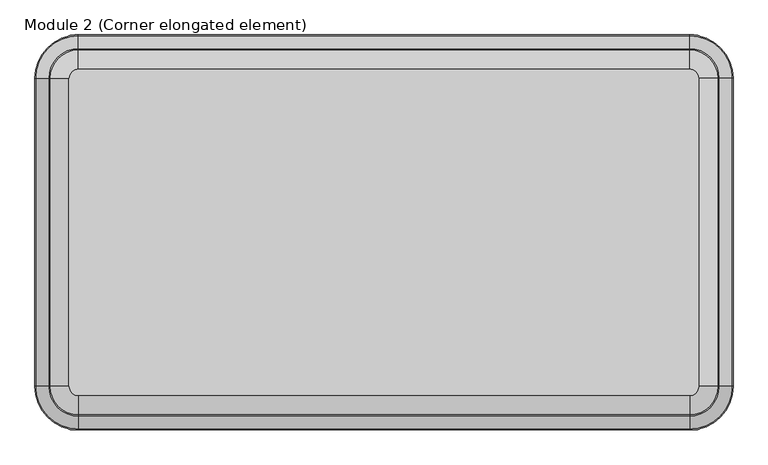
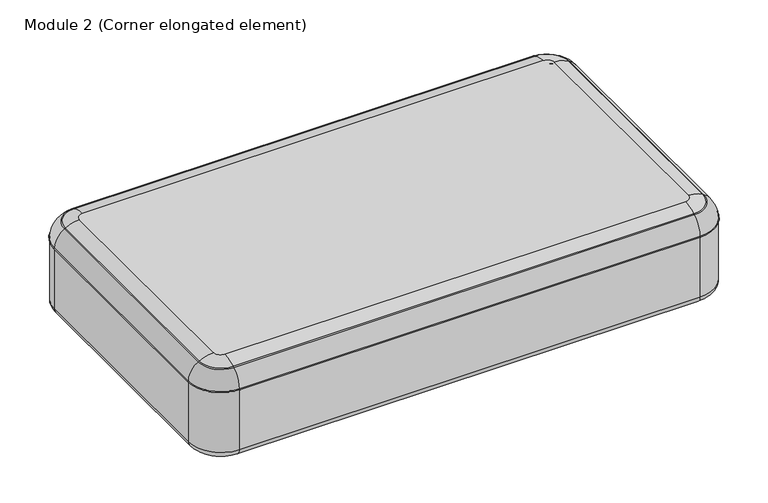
"""IFC4 building model written with IfcOpenShell, lengths in millimetres: furniture geometry, Module 2 (Corner elongated element) : 1600х930х710мм."""

from ifc_helpers import new_model, si_unit, point, frame, origin, place, context, project, spatial, polyline, circle_curve, ellipse_curve, trimmed, source, transform, mapped, element, save
from ifc_brep_helpers import plane_surface, cylinder_surface, revolved_surface, advanced_brep


def module_2_corner_elongated_element_f42900f3(model_context):
    return source(origin(), model_context, "Body", "AdvancedBrep", [
        advanced_brep(
        [(90.0, -930.0, 190.0), (0.0, -840.0, 190.0), (20.0, -840.0, 170.0), (90.0, -910.0, 170.0), (90.0, -930.0, 369.0816596), (0.0, -840.0, 369.0816596), (90.0, -903.0932178, 417.1277728), (26.9067822, -840.0, 417.1277728), (0.0043962, -840.0, 370.2686252), (90.0, -929.9956038, 370.2686252), (90.0, -900.2270188, 418.8499589), (29.7729812, -840.0, 418.8499589), (90.0, -860.0212696, 430.0), (69.9787304, -840.0, 430.0), (1380.0, -910.0, 170.0), (1380.0, -930.0, 190.0), (1380.0, -930.0, 369.0816596), (1380.0, -929.9956038, 370.2686252), (1380.0, -903.0932178, 417.1277728), (1380.0, -900.2270188, 418.8499589), (1380.0, -860.0212696, 430.0), (1450.0, -840.0, 170.0), (1470.0, -840.0, 190.0), (1470.0, -840.0, 369.0816596), (1469.9956038, -840.0, 370.2686252), (1443.0932178, -840.0, 417.1277728), (1440.2270188, -840.0, 418.8499589), (1400.0212696, -840.0, 430.0), (1450.0, -190.0, 170.0), (1470.0, -190.0, 190.0), (1470.0, -190.0, 369.0816596), (1469.9956038, -190.0, 370.2686252), (1443.0932178, -190.0, 417.1277728), (1440.2270188, -190.0, 418.8499589), (1400.0212696, -190.0, 430.0), (1380.0, -120.0, 170.0), (1380.0, -100.0, 190.0), (1380.0, -100.0, 369.0816596), (1380.0, -100.0043962, 370.2686252), (1380.0, -126.9067822, 417.1277728), (1380.0, -129.7729812, 418.8499589), (1380.0, -169.9787304, 430.0), (90.0, -120.0, 170.0), (90.0, -100.0, 190.0), (90.0, -100.0, 369.0816596), (90.0, -100.0043962, 370.2686252), (90.0, -126.9067822, 417.1277728), (90.0, -129.7729812, 418.8499589), (90.0, -169.9787304, 430.0), (20.0, -190.0, 170.0), (0.0, -190.0, 190.0), (0.0, -190.0, 369.0816596), (0.0043962, -190.0, 370.2686252), (26.9067822, -190.0, 417.1277728), (29.7729812, -190.0, 418.8499589), (69.9787304, -190.0, 430.0)],
        [
            (0, 1, circle_curve(frame((90.0, -840.0, 190.0), z_axis=(0.0, 0.0, -1.0), x_axis=(-1.0, 0.0, 0.0)), 90.0)),
            (1, 2, circle_curve(frame((20.0, -840.0, 190.0), z_axis=(0.0, -1.0, 0.0), x_axis=(1.0, 0.0, 0.0)), 20.0)),
            (2, 3, circle_curve(frame((90.0, -840.0, 170.0), z_axis=(0.0, 0.0, 1.0), x_axis=(-1.0, 0.0, 0.0)), 70.0)),
            (3, 0, circle_curve(frame((90.0, -910.0, 190.0), z_axis=(-1.0, 0.0, 0.0), x_axis=(0.0, 1.0, 0.0)), 20.0)),
            (0, 4),
            (4, 5, circle_curve(frame((90.0, -840.0, 369.0816596), z_axis=(0.0, 0.0, -1.0), x_axis=(-1.0, 0.0, 0.0)), 90.0)),
            (5, 1),
            (6, 7, circle_curve(frame((90.0, -840.0, 417.1277728), z_axis=(0.0, 0.0, -1.0), x_axis=(-1.0, 0.0, 0.0)), 63.0932178)),
            (7, 8, circle_curve(frame((55.482257, -840.0, 369.5701963), z_axis=(0.0, -1.0, 0.0), x_axis=(1.0, 0.0, 0.0)), 55.482257)),
            (8, 9, circle_curve(frame((90.0, -840.0, 370.2686252), z_axis=(0.0, 0.0, 1.0), x_axis=(-1.0, 0.0, 0.0)), 89.9956038)),
            (9, 6, circle_curve(frame((90.0, -874.517743, 369.5701963), z_axis=(-1.0, 0.0, 0.0), x_axis=(0.0, 1.0, 0.0)), 55.482257)),
            (6, 10),
            (10, 11, circle_curve(frame((90.0, -840.0, 418.8499589), z_axis=(0.0, 0.0, -1.0), x_axis=(-1.0, 0.0, 0.0)), 60.2270188)),
            (11, 7),
            (10, 12, circle_curve(frame((90.0, -860.0212696, 351.9363554), z_axis=(-1.0, 0.0, 0.0), x_axis=(0.0, 1.0, 0.0)), 78.0636446)),
            (12, 13, circle_curve(frame((90.0, -840.0, 430.0), z_axis=(0.0, 0.0, -1.0), x_axis=(-1.0, 0.0, 0.0)), 20.0212696)),
            (13, 11, circle_curve(frame((69.9787304, -840.0, 351.9363554), z_axis=(0.0, -1.0, 0.0), x_axis=(1.0, 0.0, 0.0)), 78.0636446)),
            (3, 14),
            (14, 15, circle_curve(frame((1380.0, -910.0, 190.0), z_axis=(-1.0, 0.0, 0.0), x_axis=(0.0, 1.0, 0.0)), 20.0)),
            (15, 0),
            (15, 16),
            (16, 4),
            (9, 17),
            (17, 18, circle_curve(frame((1380.0, -874.517743, 369.5701963), z_axis=(-1.0, 0.0, 0.0), x_axis=(0.0, 1.0, 0.0)), 55.482257)),
            (18, 6),
            (18, 19),
            (19, 10),
            (19, 20, circle_curve(frame((1380.0, -860.0212696, 351.9363554), z_axis=(-1.0, 0.0, 0.0), x_axis=(0.0, 1.0, 0.0)), 78.0636446)),
            (20, 12),
            (14, 21, circle_curve(frame((1380.0, -840.0, 170.0), z_axis=(0.0, 0.0, 1.0), x_axis=(0.0, -1.0, 0.0)), 70.0)),
            (21, 22, circle_curve(frame((1450.0, -840.0, 190.0), z_axis=(0.0, -1.0, 0.0), x_axis=(-1.0, 0.0, 0.0)), 20.0)),
            (22, 15, circle_curve(frame((1380.0, -840.0, 190.0), z_axis=(0.0, 0.0, -1.0), x_axis=(0.0, -1.0, 0.0)), 90.0)),
            (22, 23),
            (23, 16, circle_curve(frame((1380.0, -840.0, 369.0816596), z_axis=(0.0, 0.0, -1.0), x_axis=(0.0, -1.0, 0.0)), 90.0)),
            (17, 24, circle_curve(frame((1380.0, -840.0, 370.2686252), z_axis=(0.0, 0.0, 1.0), x_axis=(0.0, -1.0, 0.0)), 89.9956038)),
            (24, 25, circle_curve(frame((1414.517743, -840.0, 369.5701963), z_axis=(0.0, -1.0, 0.0), x_axis=(-1.0, 0.0, 0.0)), 55.482257)),
            (25, 18, circle_curve(frame((1380.0, -840.0, 417.1277728), z_axis=(0.0, 0.0, -1.0), x_axis=(0.0, -1.0, 0.0)), 63.0932178)),
            (25, 26),
            (26, 19, circle_curve(frame((1380.0, -840.0, 418.8499589), z_axis=(0.0, 0.0, -1.0), x_axis=(0.0, -1.0, 0.0)), 60.2270188)),
            (26, 27, circle_curve(frame((1400.0212696, -840.0, 351.9363554), z_axis=(0.0, -1.0, 0.0), x_axis=(-1.0, 0.0, 0.0)), 78.0636446)),
            (27, 20, circle_curve(frame((1380.0, -840.0, 430.0), z_axis=(0.0, 0.0, -1.0), x_axis=(0.0, -1.0, 0.0)), 20.0212696)),
            (21, 28),
            (28, 29, circle_curve(frame((1450.0, -190.0, 190.0), z_axis=(0.0, -1.0, 0.0), x_axis=(-1.0, 0.0, 0.0)), 20.0)),
            (29, 22),
            (29, 30),
            (30, 23),
            (24, 31),
            (31, 32, circle_curve(frame((1414.517743, -190.0, 369.5701963), z_axis=(0.0, -1.0, 0.0), x_axis=(-1.0, 0.0, 0.0)), 55.482257)),
            (32, 25),
            (32, 33),
            (33, 26),
            (33, 34, circle_curve(frame((1400.0212696, -190.0, 351.9363554), z_axis=(0.0, -1.0, 0.0), x_axis=(-1.0, 0.0, 0.0)), 78.0636446)),
            (34, 27),
            (28, 35, circle_curve(frame((1380.0, -190.0, 170.0), z_axis=(0.0, 0.0, 1.0), x_axis=(1.0, 0.0, 0.0)), 70.0)),
            (35, 36, circle_curve(frame((1380.0, -120.0, 190.0), z_axis=(1.0, 0.0, 0.0), x_axis=(0.0, -1.0, 0.0)), 20.0)),
            (36, 29, circle_curve(frame((1380.0, -190.0, 190.0), z_axis=(0.0, 0.0, -1.0), x_axis=(1.0, 0.0, 0.0)), 90.0)),
            (36, 37),
            (37, 30, circle_curve(frame((1380.0, -190.0, 369.0816596), z_axis=(0.0, 0.0, -1.0), x_axis=(1.0, 0.0, 0.0)), 90.0)),
            (31, 38, circle_curve(frame((1380.0, -190.0, 370.2686252), z_axis=(0.0, 0.0, 1.0), x_axis=(1.0, 0.0, 0.0)), 89.9956038)),
            (38, 39, circle_curve(frame((1380.0, -155.482257, 369.5701963), z_axis=(1.0, 0.0, 0.0), x_axis=(0.0, -1.0, 0.0)), 55.482257)),
            (39, 32, circle_curve(frame((1380.0, -190.0, 417.1277728), z_axis=(0.0, 0.0, -1.0), x_axis=(1.0, 0.0, 0.0)), 63.0932178)),
            (39, 40),
            (40, 33, circle_curve(frame((1380.0, -190.0, 418.8499589), z_axis=(0.0, 0.0, -1.0), x_axis=(1.0, 0.0, 0.0)), 60.2270188)),
            (40, 41, circle_curve(frame((1380.0, -169.9787304, 351.9363554), z_axis=(1.0, 0.0, 0.0), x_axis=(0.0, -1.0, 0.0)), 78.0636446)),
            (41, 34, circle_curve(frame((1380.0, -190.0, 430.0), z_axis=(0.0, 0.0, -1.0), x_axis=(1.0, 0.0, 0.0)), 20.0212696)),
            (35, 42),
            (42, 43, circle_curve(frame((90.0, -120.0, 190.0), z_axis=(1.0, 0.0, 0.0), x_axis=(0.0, -1.0, 0.0)), 20.0)),
            (43, 36),
            (43, 44),
            (44, 37),
            (38, 45),
            (45, 46, circle_curve(frame((90.0, -155.482257, 369.5701963), z_axis=(1.0, 0.0, 0.0), x_axis=(0.0, -1.0, 0.0)), 55.482257)),
            (46, 39),
            (46, 47),
            (47, 40),
            (47, 48, circle_curve(frame((90.0, -169.9787304, 351.9363554), z_axis=(1.0, 0.0, 0.0), x_axis=(0.0, -1.0, 0.0)), 78.0636446)),
            (48, 41),
            (42, 49, circle_curve(frame((90.0, -190.0, 170.0), z_axis=(0.0, 0.0, 1.0), x_axis=(0.0, 1.0, 0.0)), 70.0)),
            (49, 50, circle_curve(frame((20.0, -190.0, 190.0), z_axis=(0.0, 1.0, 0.0), x_axis=(1.0, 0.0, 0.0)), 20.0)),
            (50, 43, circle_curve(frame((90.0, -190.0, 190.0), z_axis=(0.0, 0.0, -1.0), x_axis=(0.0, 1.0, 0.0)), 90.0)),
            (50, 51),
            (51, 44, circle_curve(frame((90.0, -190.0, 369.0816596), z_axis=(0.0, 0.0, -1.0), x_axis=(0.0, 1.0, 0.0)), 90.0)),
            (45, 52, circle_curve(frame((90.0, -190.0, 370.2686252), z_axis=(0.0, 0.0, 1.0), x_axis=(0.0, 1.0, 0.0)), 89.9956038)),
            (52, 53, circle_curve(frame((55.482257, -190.0, 369.5701963), z_axis=(0.0, 1.0, 0.0), x_axis=(1.0, 0.0, 0.0)), 55.482257)),
            (53, 46, circle_curve(frame((90.0, -190.0, 417.1277728), z_axis=(0.0, 0.0, -1.0), x_axis=(0.0, 1.0, 0.0)), 63.0932178)),
            (53, 54),
            (54, 47, circle_curve(frame((90.0, -190.0, 418.8499589), z_axis=(0.0, 0.0, -1.0), x_axis=(0.0, 1.0, 0.0)), 60.2270188)),
            (54, 55, circle_curve(frame((69.9787304, -190.0, 351.9363554), z_axis=(0.0, 1.0, 0.0), x_axis=(1.0, 0.0, 0.0)), 78.0636446)),
            (55, 48, circle_curve(frame((90.0, -190.0, 430.0), z_axis=(0.0, 0.0, -1.0), x_axis=(0.0, 1.0, 0.0)), 20.0212696)),
            (55, 13),
            (2, 49),
            (1, 50),
            (5, 51),
            (7, 53),
            (52, 8),
            (11, 54),
            (4, 9, circle_curve(frame((90.0, -930.8026401, 369.6781233), z_axis=(-1.0, 0.0, 0.0), x_axis=(0.0, 1.0, 0.0)), 1.0)),
            (8, 5, circle_curve(frame((-0.8026401, -840.0, 369.6781233), z_axis=(0.0, -1.0, 0.0), x_axis=(1.0, 0.0, 0.0)), 1.0)),
            (16, 17, circle_curve(frame((1380.0, -930.8026401, 369.6781233), z_axis=(-1.0, 0.0, 0.0), x_axis=(0.0, 1.0, 0.0)), 1.0)),
            (23, 24, circle_curve(frame((1470.8026401, -840.0, 369.6781233), z_axis=(0.0, -1.0, 0.0), x_axis=(-1.0, 0.0, 0.0)), 1.0)),
            (30, 31, circle_curve(frame((1470.8026401, -190.0, 369.6781233), z_axis=(0.0, -1.0, 0.0), x_axis=(-1.0, 0.0, 0.0)), 1.0)),
            (37, 38, circle_curve(frame((1380.0, -99.1973599, 369.6781233), z_axis=(1.0, 0.0, 0.0), x_axis=(0.0, -1.0, 0.0)), 1.0)),
            (44, 45, circle_curve(frame((90.0, -99.1973599, 369.6781233), z_axis=(1.0, 0.0, 0.0), x_axis=(0.0, -1.0, 0.0)), 1.0)),
            (51, 52, circle_curve(frame((-0.8026401, -190.0, 369.6781233), z_axis=(0.0, 1.0, 0.0), x_axis=(1.0, 0.0, 0.0)), 1.0)),
        ],
        [
            revolved_surface(trimmed(ellipse_curve(frame((20.0, -840.0, 190.0), z_axis=(0.0, 1.0, 0.0), x_axis=(1.0, 0.0, 0.0)), 20.0, 20.0), [point((20.0, -840.0, 170.0))], [point((0.0, -840.0, 190.0))], True, "CARTESIAN"), (90.0, -840.0, 430.0), (0.0, 0.0, 1.0)),
            cylinder_surface(frame((90.0, -840.0, 430.0), z_axis=(0.0, 0.0, 1.0), x_axis=(-1.0, 0.0, 0.0)), 90.0),
            revolved_surface(trimmed(ellipse_curve(frame((55.482257, -840.0, 369.5701963), z_axis=(0.0, 1.0, 0.0), x_axis=(1.0, 0.0, 0.0)), 55.482257, 55.482257), [point((0.0043962, -840.0, 370.2686252))], [point((26.9067822, -840.0, 417.1277728))], True, "CARTESIAN"), (90.0, -840.0, 430.0), (0.0, 0.0, 1.0)),
            revolved_surface(polyline([(26.9067822, -840.0, 417.1277728), (29.7729812, -840.0, 418.8499589)]), (90.0, -840.0, 430.0), (0.0, 0.0, 1.0)),
            revolved_surface(trimmed(ellipse_curve(frame((69.9787304, -840.0, 351.9363554), z_axis=(0.0, 1.0, 0.0), x_axis=(1.0, 0.0, 0.0)), 78.0636446, 78.0636446), [point((29.7729812, -840.0, 418.8499589))], [point((69.9787304, -840.0, 430.0))], True, "CARTESIAN"), (90.0, -840.0, 430.0), (0.0, 0.0, 1.0)),
            cylinder_surface(frame((90.0, -910.0, 190.0), z_axis=(-1.0, 0.0, 0.0), x_axis=(0.0, 1.0, 0.0)), 20.0),
            plane_surface(frame((90.0, -930.0, 190.0), z_axis=(0.0, -1.0, 0.0), x_axis=(1.0, 0.0, 0.0))),
            cylinder_surface(frame((90.0, -874.517743, 369.5701963), z_axis=(-1.0, 0.0, 0.0), x_axis=(0.0, 1.0, 0.0)), 55.482257),
            plane_surface(frame((90.0, -903.0932178, 417.1277728), z_axis=(0.0, -0.5150380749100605, 0.8571673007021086), x_axis=(1.0, 0.0, 0.0))),
            cylinder_surface(frame((90.0, -860.0212696, 351.9363554), z_axis=(-1.0, 0.0, 0.0), x_axis=(0.0, 1.0, 0.0)), 78.0636446),
            revolved_surface(trimmed(ellipse_curve(frame((1380.0, -910.0, 190.0), z_axis=(-1.0, 0.0, 0.0), x_axis=(0.0, 1.0, 0.0)), 20.0, 20.0), [point((1380.0, -910.0, 170.0))], [point((1380.0, -930.0, 190.0))], True, "CARTESIAN"), (1380.0, -840.0, 430.0), (0.0, 0.0, 1.0)),
            cylinder_surface(frame((1380.0, -840.0, 430.0), z_axis=(0.0, 0.0, 1.0), x_axis=(0.0, -1.0, 0.0)), 90.0),
            revolved_surface(trimmed(ellipse_curve(frame((1380.0, -874.517743, 369.5701963), z_axis=(-1.0, 0.0, 0.0), x_axis=(0.0, 1.0, 0.0)), 55.482257, 55.482257), [point((1380.0, -929.9956038, 370.2686252))], [point((1380.0, -903.0932178, 417.1277728))], True, "CARTESIAN"), (1380.0, -840.0, 430.0), (0.0, 0.0, 1.0)),
            revolved_surface(polyline([(1380.0, -903.0932178, 417.1277728), (1380.0, -900.2270188, 418.8499589)]), (1380.0, -840.0, 430.0), (0.0, 0.0, 1.0)),
            revolved_surface(trimmed(ellipse_curve(frame((1380.0, -860.0212696, 351.9363554), z_axis=(-1.0, 0.0, 0.0), x_axis=(0.0, 1.0, 0.0)), 78.0636446, 78.0636446), [point((1380.0, -900.2270188, 418.8499589))], [point((1380.0, -860.0212696, 430.0))], True, "CARTESIAN"), (1380.0, -840.0, 430.0), (0.0, 0.0, 1.0)),
            cylinder_surface(frame((1450.0, -840.0, 190.0), z_axis=(0.0, -1.0, 0.0), x_axis=(-1.0, 0.0, 0.0)), 20.0),
            plane_surface(frame((1470.0, -840.0, 190.0), z_axis=(1.0, 0.0, 0.0), x_axis=(0.0, 1.0, 0.0))),
            cylinder_surface(frame((1414.517743, -840.0, 369.5701963), z_axis=(0.0, -1.0, 0.0), x_axis=(-1.0, 0.0, 0.0)), 55.482257),
            plane_surface(frame((1443.0932178, -840.0, 417.1277728), z_axis=(0.5150380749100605, 0.0, 0.8571673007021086), x_axis=(0.0, 1.0, 0.0))),
            cylinder_surface(frame((1400.0212696, -840.0, 351.9363554), z_axis=(0.0, -1.0, 0.0), x_axis=(-1.0, 0.0, 0.0)), 78.0636446),
            revolved_surface(trimmed(ellipse_curve(frame((1450.0, -190.0, 190.0), z_axis=(0.0, -1.0, 0.0), x_axis=(-1.0, 0.0, 0.0)), 20.0, 20.0), [point((1450.0, -190.0, 170.0))], [point((1470.0, -190.0, 190.0))], True, "CARTESIAN"), (1380.0, -190.0, 430.0), (0.0, 0.0, 1.0)),
            cylinder_surface(frame((1380.0, -190.0, 430.0), z_axis=(0.0, 0.0, 1.0), x_axis=(1.0, 0.0, 0.0)), 90.0),
            revolved_surface(trimmed(ellipse_curve(frame((1414.517743, -190.0, 369.5701963), z_axis=(0.0, -1.0, 0.0), x_axis=(-1.0, 0.0, 0.0)), 55.482257, 55.482257), [point((1469.9956038, -190.0, 370.2686252))], [point((1443.0932178, -190.0, 417.1277728))], True, "CARTESIAN"), (1380.0, -190.0, 430.0), (0.0, 0.0, 1.0)),
            revolved_surface(polyline([(1443.0932178, -190.0, 417.1277728), (1440.2270188, -190.0, 418.8499589)]), (1380.0, -190.0, 430.0), (0.0, 0.0, 1.0)),
            revolved_surface(trimmed(ellipse_curve(frame((1400.0212696, -190.0, 351.9363554), z_axis=(0.0, -1.0, 0.0), x_axis=(-1.0, 0.0, 0.0)), 78.0636446, 78.0636446), [point((1440.2270188, -190.0, 418.8499589))], [point((1400.0212696, -190.0, 430.0))], True, "CARTESIAN"), (1380.0, -190.0, 430.0), (0.0, 0.0, 1.0)),
            cylinder_surface(frame((1380.0, -120.0, 190.0), z_axis=(1.0, 0.0, 0.0), x_axis=(0.0, -1.0, 0.0)), 20.0),
            plane_surface(frame((1380.0, -100.0, 190.0), z_axis=(0.0, 1.0, 0.0), x_axis=(-1.0, 0.0, 0.0))),
            cylinder_surface(frame((1380.0, -155.482257, 369.5701963), z_axis=(1.0, 0.0, 0.0), x_axis=(0.0, -1.0, 0.0)), 55.482257),
            plane_surface(frame((1380.0, -126.9067822, 417.1277728), z_axis=(0.0, 0.5150380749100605, 0.8571673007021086), x_axis=(-1.0, 0.0, 0.0))),
            cylinder_surface(frame((1380.0, -169.9787304, 351.9363554), z_axis=(1.0, 0.0, 0.0), x_axis=(0.0, -1.0, 0.0)), 78.0636446),
            revolved_surface(trimmed(ellipse_curve(frame((90.0, -120.0, 190.0), z_axis=(1.0, 0.0, 0.0), x_axis=(0.0, -1.0, 0.0)), 20.0, 20.0), [point((90.0, -120.0, 170.0))], [point((90.0, -100.0, 190.0))], True, "CARTESIAN"), (90.0, -190.0, 430.0), (0.0, 0.0, 1.0)),
            cylinder_surface(frame((90.0, -190.0, 430.0), z_axis=(0.0, 0.0, 1.0), x_axis=(0.0, 1.0, 0.0)), 90.0),
            revolved_surface(trimmed(ellipse_curve(frame((90.0, -155.482257, 369.5701963), z_axis=(1.0, 0.0, 0.0), x_axis=(0.0, -1.0, 0.0)), 55.482257, 55.482257), [point((90.0, -100.0043962, 370.2686252))], [point((90.0, -126.9067822, 417.1277728))], True, "CARTESIAN"), (90.0, -190.0, 430.0), (0.0, 0.0, 1.0)),
            revolved_surface(polyline([(90.0, -126.9067822, 417.1277728), (90.0, -129.7729812, 418.8499589)]), (90.0, -190.0, 430.0), (0.0, 0.0, 1.0)),
            revolved_surface(trimmed(ellipse_curve(frame((90.0, -169.9787304, 351.9363554), z_axis=(1.0, 0.0, 0.0), x_axis=(0.0, -1.0, 0.0)), 78.0636446, 78.0636446), [point((90.0, -129.7729812, 418.8499589))], [point((90.0, -169.9787304, 430.0))], True, "CARTESIAN"), (90.0, -190.0, 430.0), (0.0, 0.0, 1.0)),
            plane_surface(frame((69.9787304, -190.0, 430.0), z_axis=(0.0, 0.0, 1.0), x_axis=(0.0, -1.0, 0.0))),
            plane_surface(frame((80.0, -190.0, 170.0), z_axis=(0.0, 0.0, -1.0), x_axis=(0.0, -1.0, 0.0))),
            cylinder_surface(frame((20.0, -190.0, 190.0), z_axis=(0.0, 1.0, 0.0), x_axis=(1.0, 0.0, 0.0)), 20.0),
            plane_surface(frame((0.0, -190.0, 190.0), z_axis=(-1.0, 0.0, 0.0), x_axis=(0.0, -1.0, 0.0))),
            cylinder_surface(frame((55.482257, -190.0, 369.5701963), z_axis=(0.0, 1.0, 0.0), x_axis=(1.0, 0.0, 0.0)), 55.482257),
            plane_surface(frame((26.9067822, -190.0, 417.1277728), z_axis=(-0.5150380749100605, 0.0, 0.8571673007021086), x_axis=(0.0, -1.0, 0.0))),
            cylinder_surface(frame((69.9787304, -190.0, 351.9363554), z_axis=(0.0, 1.0, 0.0), x_axis=(1.0, 0.0, 0.0)), 78.0636446),
            revolved_surface(trimmed(ellipse_curve(frame((-0.8026401, -840.0, 369.6781233), z_axis=(0.0, 1.0, 0.0), x_axis=(1.0, 0.0, 0.0)), 1.0, 1.0), [point((0.0, -840.0, 369.0816596))], [point((0.0043962, -840.0, 370.2686252))], True, "CARTESIAN"), (90.0, -840.0, 430.0), (0.0, 0.0, 1.0)),
            cylinder_surface(frame((90.0, -930.8026401, 369.6781233), z_axis=(-1.0, 0.0, 0.0), x_axis=(0.0, 1.0, 0.0)), 1.0),
            revolved_surface(trimmed(ellipse_curve(frame((1380.0, -930.8026401, 369.6781233), z_axis=(-1.0, 0.0, 0.0), x_axis=(0.0, 1.0, 0.0)), 1.0, 1.0), [point((1380.0, -930.0, 369.0816596))], [point((1380.0, -929.9956038, 370.2686252))], True, "CARTESIAN"), (1380.0, -840.0, 430.0), (0.0, 0.0, 1.0)),
            cylinder_surface(frame((1470.8026401, -840.0, 369.6781233), z_axis=(0.0, -1.0, 0.0), x_axis=(-1.0, 0.0, 0.0)), 1.0),
            revolved_surface(trimmed(ellipse_curve(frame((1470.8026401, -190.0, 369.6781233), z_axis=(0.0, -1.0, 0.0), x_axis=(-1.0, 0.0, 0.0)), 1.0, 1.0), [point((1470.0, -190.0, 369.0816596))], [point((1469.9956038, -190.0, 370.2686252))], True, "CARTESIAN"), (1380.0, -190.0, 430.0), (0.0, 0.0, 1.0)),
            cylinder_surface(frame((1380.0, -99.1973599, 369.6781233), z_axis=(1.0, 0.0, 0.0), x_axis=(0.0, -1.0, 0.0)), 1.0),
            revolved_surface(trimmed(ellipse_curve(frame((90.0, -99.1973599, 369.6781233), z_axis=(1.0, 0.0, 0.0), x_axis=(0.0, -1.0, 0.0)), 1.0, 1.0), [point((90.0, -100.0, 369.0816596))], [point((90.0, -100.0043962, 370.2686252))], True, "CARTESIAN"), (90.0, -190.0, 430.0), (0.0, 0.0, 1.0)),
            cylinder_surface(frame((-0.8026401, -190.0, 369.6781233), z_axis=(0.0, 1.0, 0.0), x_axis=(1.0, 0.0, 0.0)), 1.0),
        ],
        [
            (0, [[1, 2, 3, 4]]),
            (1, [[-1, 5, 6, 7]]),
            (2, [[8, 9, 10, 11]]),
            (3, [[-8, 12, 13, 14]]),
            (4, [[-13, 15, 16, 17]]),
            (5, [[-4, 18, 19, 20]]),
            (6, [[-5, -20, 21, 22]]),
            (7, [[-11, 23, 24, 25]]),
            (8, [[-12, -25, 26, 27]]),
            (9, [[-15, -27, 28, 29]]),
            (10, [[-19, 30, 31, 32]]),
            (11, [[-21, -32, 33, 34]]),
            (12, [[-24, 35, 36, 37]]),
            (13, [[-26, -37, 38, 39]]),
            (14, [[-28, -39, 40, 41]]),
            (15, [[-31, 42, 43, 44]]),
            (16, [[-33, -44, 45, 46]]),
            (17, [[-36, 47, 48, 49]]),
            (18, [[-38, -49, 50, 51]]),
            (19, [[-40, -51, 52, 53]]),
            (20, [[-43, 54, 55, 56]]),
            (21, [[-45, -56, 57, 58]]),
            (22, [[-48, 59, 60, 61]]),
            (23, [[-50, -61, 62, 63]]),
            (24, [[-52, -63, 64, 65]]),
            (25, [[-55, 66, 67, 68]]),
            (26, [[-57, -68, 69, 70]]),
            (27, [[-60, 71, 72, 73]]),
            (28, [[-62, -73, 74, 75]]),
            (29, [[-64, -75, 76, 77]]),
            (30, [[-67, 78, 79, 80]]),
            (31, [[-69, -80, 81, 82]]),
            (32, [[-72, 83, 84, 85]]),
            (33, [[-74, -85, 86, 87]]),
            (34, [[-76, -87, 88, 89]]),
            (35, [[-16, -29, -41, -53, -65, -77, -89, 90]]),
            (36, [[-3, 91, -78, -66, -54, -42, -30, -18]]),
            (37, [[-2, 92, -79, -91]]),
            (38, [[-7, 93, -81, -92]]),
            (39, [[-9, 94, -84, 95]]),
            (40, [[-14, 96, -86, -94]]),
            (41, [[-17, -90, -88, -96]]),
            (42, [[-6, 97, -10, 98]]),
            (43, [[-22, 99, -23, -97]]),
            (44, [[-34, 100, -35, -99]]),
            (45, [[-46, 101, -47, -100]]),
            (46, [[-58, 102, -59, -101]]),
            (47, [[-70, 103, -71, -102]]),
            (48, [[-82, 104, -83, -103]]),
            (49, [[-93, -98, -95, -104]]),
        ],
    ),
    ])


if __name__ == "__main__":
    model = new_model("IFC4")
    model_context = context("Model", 3, world=origin())
    ifc_project = project(units=[si_unit("LENGTHUNIT", "METRE", prefix="MILLI")], contexts=[model_context])
    site = spatial("IfcSite", under=ifc_project)
    building = spatial("IfcBuilding", under=site)
    placement = place(None, origin())
    module_2_corner_elongated_element_shape = module_2_corner_elongated_element_f42900f3(model_context)
    element("IfcFurniture", 1, ObjectType="Module 2 (Corner elongated element) : 1600х930х710мм", at=placement, inside=building, context=model_context, shape_type="MappedRepresentation", body=[
        mapped(module_2_corner_elongated_element_shape, transform((0.0, 0.0, 0.0), x_axis=(1.0, 0.0, 0.0), y_axis=(0.0, 1.0, 0.0), z_axis=(0.0, 0.0, 1.0))),
    ])
    save(model, "model.ifc")
